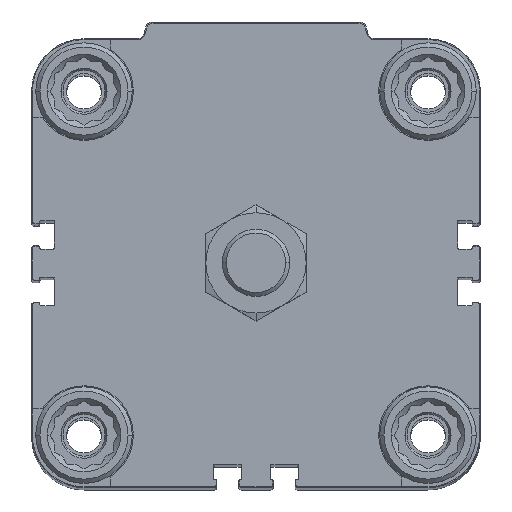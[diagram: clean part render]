
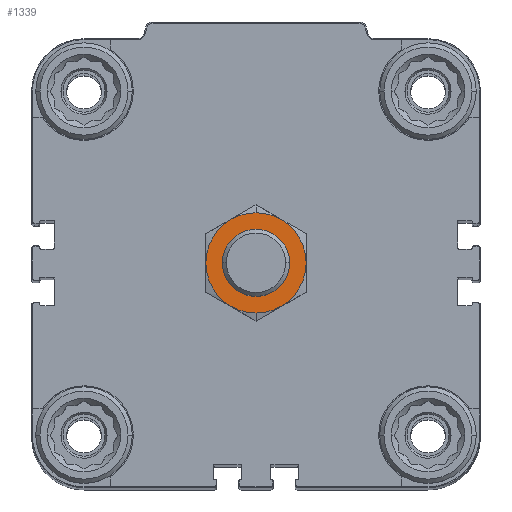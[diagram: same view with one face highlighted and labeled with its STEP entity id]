
A CAD part, top view. The second image highlights one B-rep face of the part: STEP entity #1339.
In plain terms, the highlighted planar face has unit normal (0, 0, 1).
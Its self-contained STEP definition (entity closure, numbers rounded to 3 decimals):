
#440 = DIRECTION ( 'NONE',  ( 0., 0., -1. ) ) ;
#1339 = ADVANCED_FACE ( 'NONE', ( #12471, #10726 ), #1923, .F. ) ;
#1720 = EDGE_LOOP ( 'NONE', ( #13010, #17317 ) ) ;
#1923 = PLANE ( 'NONE',  #17132 ) ;
#1965 = AXIS2_PLACEMENT_3D ( 'NONE', #14548, #4224, #2043 ) ;
#2043 = DIRECTION ( 'NONE',  ( 0., -1., 0. ) ) ;
#2876 = CARTESIAN_POINT ( 'NONE',  ( 0., -11.95, 22. ) ) ;
#3502 = DIRECTION ( 'NONE',  ( 0., -1., 0. ) ) ;
#3656 = ORIENTED_EDGE ( 'NONE', *, *, #6766, .T. ) ;
#4224 = DIRECTION ( 'NONE',  ( 0., 0., -1. ) ) ;
#5073 = VERTEX_POINT ( 'NONE', #9503 ) ;
#5613 = AXIS2_PLACEMENT_3D ( 'NONE', #18377, #440, #12833 ) ;
#6134 = VERTEX_POINT ( 'NONE', #2876 ) ;
#6150 = EDGE_CURVE ( 'NONE', #18223, #10842, #22256, .T. ) ;
#6766 = EDGE_CURVE ( 'NONE', #10842, #18223, #16397, .T. ) ;
#9098 = DIRECTION ( 'NONE',  ( 0., 0., -1. ) ) ;
#9503 = CARTESIAN_POINT ( 'NONE',  ( 0., 11.95, 22. ) ) ;
#9702 = AXIS2_PLACEMENT_3D ( 'NONE', #13308, #22593, #22367 ) ;
#10046 = CIRCLE ( 'NONE', #5613, 11.95 ) ;
#10509 = DIRECTION ( 'NONE',  ( 0., -1., 0. ) ) ;
#10726 = FACE_BOUND ( 'NONE', #22914, .T. ) ;
#10842 = VERTEX_POINT ( 'NONE', #22153 ) ;
#12471 = FACE_OUTER_BOUND ( 'NONE', #1720, .T. ) ;
#12764 = CARTESIAN_POINT ( 'NONE',  ( 0., 0., 22. ) ) ;
#12833 = DIRECTION ( 'NONE',  ( 0., -1., 0. ) ) ;
#13010 = ORIENTED_EDGE ( 'NONE', *, *, #13191, .F. ) ;
#13191 = EDGE_CURVE ( 'NONE', #6134, #5073, #16665, .T. ) ;
#13308 = CARTESIAN_POINT ( 'NONE',  ( 0., 0., 22. ) ) ;
#13971 = CARTESIAN_POINT ( 'NONE',  ( 0., 0., 22. ) ) ;
#14548 = CARTESIAN_POINT ( 'NONE',  ( 0., 0., 22. ) ) ;
#16023 = DIRECTION ( 'NONE',  ( 0., 0., -1. ) ) ;
#16397 = CIRCLE ( 'NONE', #1965, 8. ) ;
#16665 = CIRCLE ( 'NONE', #20371, 11.95 ) ;
#17132 = AXIS2_PLACEMENT_3D ( 'NONE', #13971, #9098, #10509 ) ;
#17317 = ORIENTED_EDGE ( 'NONE', *, *, #20103, .F. ) ;
#18223 = VERTEX_POINT ( 'NONE', #22499 ) ;
#18377 = CARTESIAN_POINT ( 'NONE',  ( 0., 0., 22. ) ) ;
#20103 = EDGE_CURVE ( 'NONE', #5073, #6134, #10046, .T. ) ;
#20371 = AXIS2_PLACEMENT_3D ( 'NONE', #12764, #16023, #3502 ) ;
#21186 = ORIENTED_EDGE ( 'NONE', *, *, #6150, .T. ) ;
#22153 = CARTESIAN_POINT ( 'NONE',  ( 0., 8., 22. ) ) ;
#22256 = CIRCLE ( 'NONE', #9702, 8. ) ;
#22367 = DIRECTION ( 'NONE',  ( 0., -1., 0. ) ) ;
#22499 = CARTESIAN_POINT ( 'NONE',  ( 0., -8., 22. ) ) ;
#22593 = DIRECTION ( 'NONE',  ( 0., 0., -1. ) ) ;
#22914 = EDGE_LOOP ( 'NONE', ( #3656, #21186 ) ) ;
